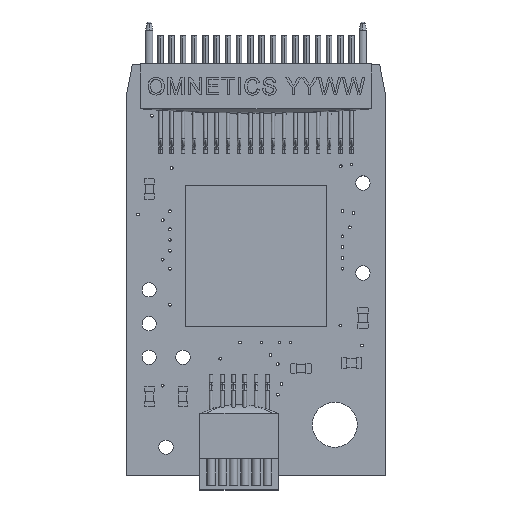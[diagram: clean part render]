
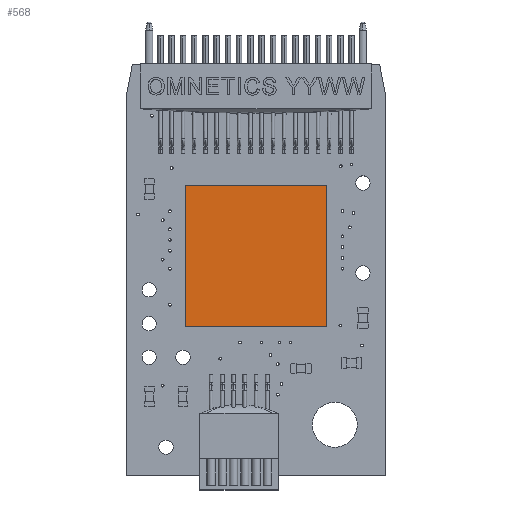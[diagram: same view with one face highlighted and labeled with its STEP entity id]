
A CAD part, top view. The second image highlights one B-rep face of the part: STEP entity #568.
In plain terms, the highlighted planar face has unit normal (0, 0, 1) as drawn and (0, 1, 0) by its records, which use the part's own axes.
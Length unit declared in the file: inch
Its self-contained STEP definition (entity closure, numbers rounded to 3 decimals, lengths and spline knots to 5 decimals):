
#405 = PLANE ( 'NONE',  #27041 ) ;
#568 = ADVANCED_FACE ( 'NONE', ( #25434 ), #405, .F. ) ;
#1744 = LINE ( 'NONE', #34783, #40649 ) ;
#2031 = CARTESIAN_POINT ( 'NONE',  ( 0.31496, 0.03346, -0.31496 ) ) ;
#4909 = LINE ( 'NONE', #48323, #52620 ) ;
#5022 = ORIENTED_EDGE ( 'NONE', *, *, #47697, .T. ) ;
#9015 = VERTEX_POINT ( 'NONE', #37905 ) ;
#10156 = VERTEX_POINT ( 'NONE', #2031 ) ;
#17092 = DIRECTION ( 'NONE',  ( 0., 0., -1. ) ) ;
#21195 = EDGE_CURVE ( 'NONE', #10156, #9015, #4909, .T. ) ;
#21283 = DIRECTION ( 'NONE',  ( 0., -1., 0. ) ) ;
#22375 = VECTOR ( 'NONE', #39561, 39.37008 ) ;
#22790 = CARTESIAN_POINT ( 'NONE',  ( 0., 0.03346, 0. ) ) ;
#22853 = LINE ( 'NONE', #26728, #22375 ) ;
#22934 = LINE ( 'NONE', #26818, #41020 ) ;
#25434 = FACE_OUTER_BOUND ( 'NONE', #38935, .T. ) ;
#26432 = CARTESIAN_POINT ( 'NONE',  ( 0.31496, 0.03346, 0. ) ) ;
#26728 = CARTESIAN_POINT ( 'NONE',  ( 0.31496, 0.03346, 0. ) ) ;
#26818 = CARTESIAN_POINT ( 'NONE',  ( 0., 0.03346, 0. ) ) ;
#27041 = AXIS2_PLACEMENT_3D ( 'NONE', #38771, #21283, #17092 ) ;
#27097 = DIRECTION ( 'NONE',  ( 0., 0., 1. ) ) ;
#29188 = VERTEX_POINT ( 'NONE', #22790 ) ;
#29834 = ORIENTED_EDGE ( 'NONE', *, *, #21195, .T. ) ;
#30107 = EDGE_CURVE ( 'NONE', #50033, #10156, #22853, .T. ) ;
#34148 = ORIENTED_EDGE ( 'NONE', *, *, #30107, .T. ) ;
#34783 = CARTESIAN_POINT ( 'NONE',  ( 0., 0.03346, 0. ) ) ;
#36564 = EDGE_CURVE ( 'NONE', #29188, #50033, #1744, .T. ) ;
#37905 = CARTESIAN_POINT ( 'NONE',  ( 0., 0.03346, -0.31496 ) ) ;
#38771 = CARTESIAN_POINT ( 'NONE',  ( 0., 0.03346, 0. ) ) ;
#38935 = EDGE_LOOP ( 'NONE', ( #5022, #46341, #34148, #29834 ) ) ;
#39561 = DIRECTION ( 'NONE',  ( 0., 0., -1. ) ) ;
#40649 = VECTOR ( 'NONE', #52400, 39.37008 ) ;
#41020 = VECTOR ( 'NONE', #27097, 39.37008 ) ;
#46341 = ORIENTED_EDGE ( 'NONE', *, *, #36564, .T. ) ;
#47488 = DIRECTION ( 'NONE',  ( -1., 0., 0. ) ) ;
#47697 = EDGE_CURVE ( 'NONE', #9015, #29188, #22934, .T. ) ;
#48323 = CARTESIAN_POINT ( 'NONE',  ( 0., 0.03346, -0.31496 ) ) ;
#50033 = VERTEX_POINT ( 'NONE', #26432 ) ;
#52400 = DIRECTION ( 'NONE',  ( 1., 0., 0. ) ) ;
#52620 = VECTOR ( 'NONE', #47488, 39.37008 ) ;
